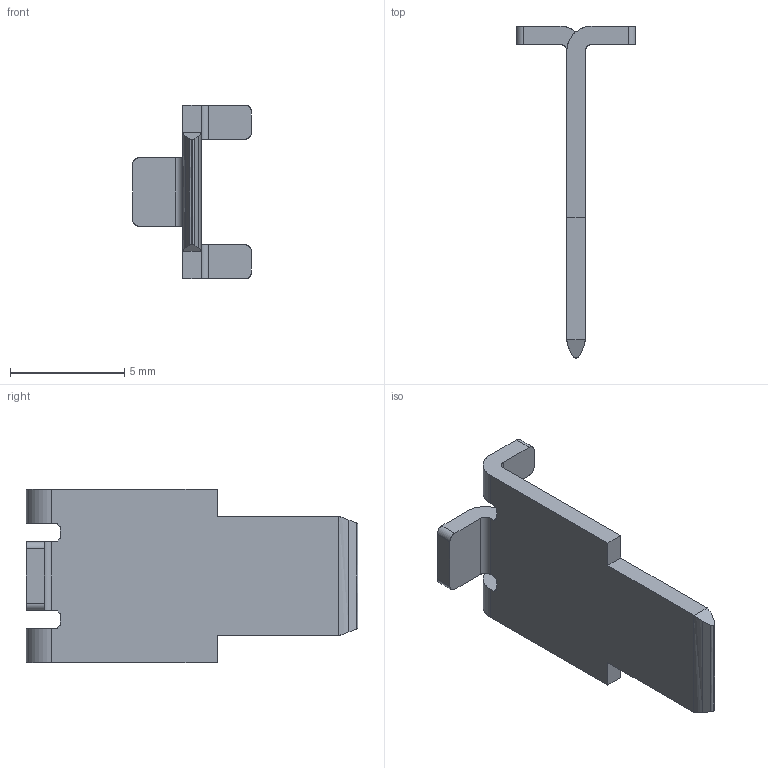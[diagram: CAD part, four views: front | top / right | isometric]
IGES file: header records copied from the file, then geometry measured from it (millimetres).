
Start section: SolidWorks IGES file using analytic representation for surfaces
Global section: file name: C:\3dwork\tanaka\AP-10\20220401_ALLŒü‚¯AP-10 H=7.5  14.5mm\IGES\3539-0001-45T_AP-10 PLUG STEP R2 ALL.IGS; native system: SolidWorks 2020; preprocessor: SolidWorks 2020; author: 83114; date: 220401.163156; units: millimetre
Bounding box: 5.2 x 14.5 x 7.6 mm (x, y, z)
Surface area: 253.5 mm2 (no closed solid volume)
Topology: 0 solids, 0 shells, 56 faces, 452 edges, 452 vertices
Faces by surface type: bspline 32, revolution 24
